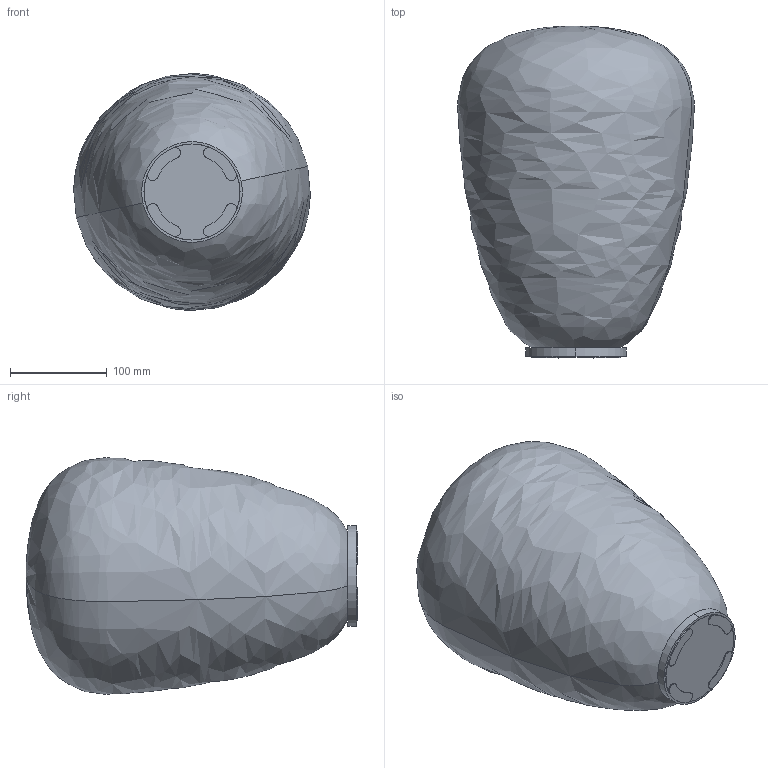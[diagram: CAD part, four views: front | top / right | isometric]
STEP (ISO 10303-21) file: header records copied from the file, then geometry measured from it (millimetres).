
FILE_DESCRIPTION (( 'STEP AP203' ), '1' );
FILE_NAME ('244_1_C_ME_3D.STEP', '2022-08-24T06:41:22', ( '' ), ( '' ), 'SwSTEP 2.0', 'SolidWorks 2022', '' );
FILE_SCHEMA (( 'CONFIG_CONTROL_DESIGN' ));
Length unit declared in the file: millimetre
Products named in the file (1): 244_1_C_ME_3D
Bounding box: 244.11 x 342.2 x 244.21 mm (x, y, z)
Volume: 1305855.5 mm3; surface area: 499906.2 mm2
Topology: 2 solids, 2 shells, 42 faces, 104 edges, 66 vertices
Faces by surface type: cylinder 24, plane 10, bspline 4, torus 4
Entity records: 1939 total; most frequent: CARTESIAN_POINT 841, DIRECTION 242, ORIENTED_EDGE 200, AXIS2_PLACEMENT_3D 107, EDGE_CURVE 100, CIRCLE 68, VERTEX_POINT 66, EDGE_LOOP 46
